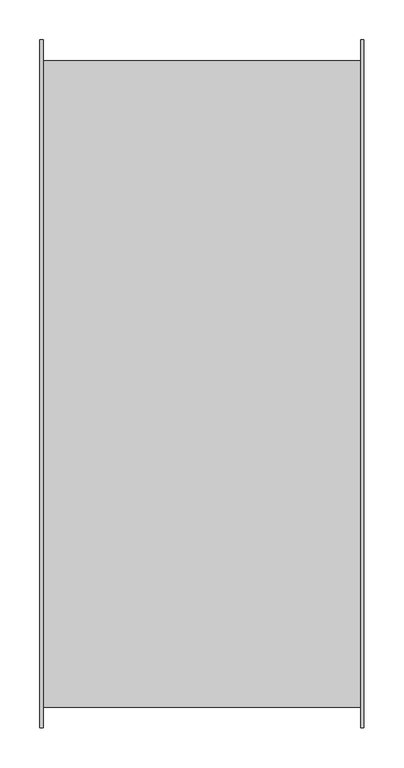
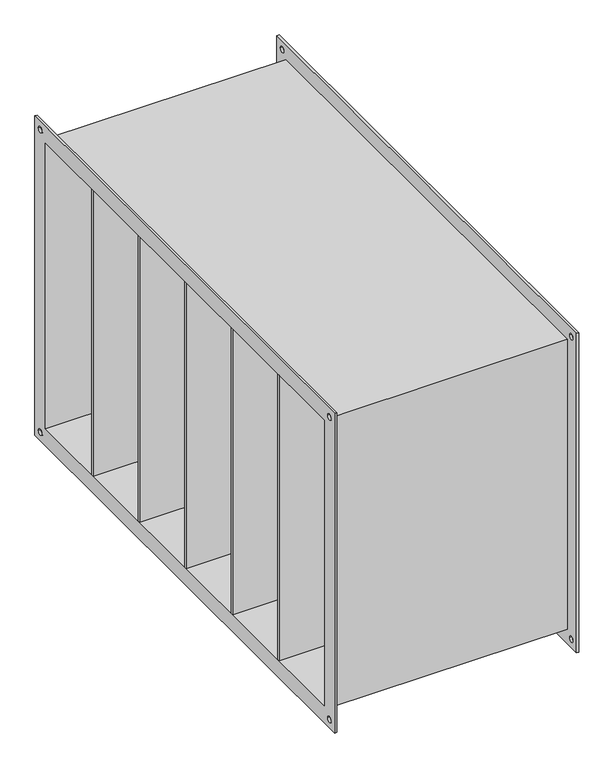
"""IFC4 building model written with IfcOpenShell, lengths in millimetres: damper geometry, СВ_ФильтрКарманныйУкороченный_КанальныйПрямоугольный_200-1000_SFPKU : SFPKU-800x500."""

from ifc_helpers import new_model, si_unit, frame, origin, place, context, project, spatial, polyline, circle_curve, outline, extrude, source, transform, mapped, element, save
from ifc_brep_helpers import plane_surface, revolved_surface, advanced_brep


def damper_000e9e42(model_context):
    return source(origin(), model_context, "Body", "SolidModel", [
        extrude(outline(polyline([(202.5, 266.6666667), (202.5, 262.6666667), (-202.5, 262.6666667), (-202.5, 266.6666667), (202.5, 266.6666667)])), frame((0.0, 0.0, -250.0), z_axis=(0.0, 0.0, 1.0), x_axis=(1.0, 0.0, 0.0)), (0.0, 0.0, 1.0), 500.0),
        extrude(outline(polyline([(202.5, 133.3333333), (202.5, 129.3333333), (-202.5, 129.3333333), (-202.5, 133.3333333), (202.5, 133.3333333)])), frame((0.0, 0.0, -250.0), z_axis=(0.0, 0.0, 1.0), x_axis=(1.0, 0.0, 0.0)), (0.0, 0.0, 1.0), 500.0),
        extrude(outline(polyline([(202.5, 0.0), (202.5, -4.0), (-202.5, -4.0), (-202.5, 0.0), (202.5, 0.0)])), frame((0.0, 0.0, -250.0), z_axis=(0.0, 0.0, 1.0), x_axis=(1.0, 0.0, 0.0)), (0.0, 0.0, 1.0), 500.0),
        extrude(outline(polyline([(202.5, -133.3333333), (202.5, -137.3333333), (-202.5, -137.3333333), (-202.5, -133.3333333), (202.5, -133.3333333)])), frame((0.0, 0.0, -250.0), z_axis=(0.0, 0.0, 1.0), x_axis=(1.0, 0.0, 0.0)), (0.0, 0.0, 1.0), 500.0),
        extrude(outline(polyline([(202.5, -266.6666667), (202.5, -270.6666667), (-202.5, -270.6666667), (-202.5, -266.6666667), (202.5, -266.6666667)])), frame((0.0, 0.0, -250.0), z_axis=(0.0, 0.0, 1.0), x_axis=(1.0, 0.0, 0.0)), (0.0, 0.0, 1.0), 500.0),
        advanced_brep(
        [(198.5, -404.0, 254.0), (-198.5, -404.0, 254.0), (-198.5, -404.0, -254.0), (198.5, -404.0, -254.0), (-198.5, 404.0, -254.0), (198.5, 404.0, -254.0), (-198.5, 404.0, 254.0), (198.5, 404.0, 254.0), (-202.5, -430.0, 280.0), (-202.5, 430.0, 280.0), (-202.5, 430.0, -280.0), (-202.5, -430.0, -280.0), (-202.5, -400.0, 250.0), (-202.5, -400.0, -250.0), (-202.5, 400.0, -250.0), (-202.5, 400.0, 250.0), (-202.5, 410.0, 265.0), (-202.5, 420.0, 265.0), (-202.5, -420.0, 265.0), (-202.5, -410.0, 265.0), (-202.5, -420.0, -265.0), (-202.5, -410.0, -265.0), (-202.5, 410.0, -265.0), (-202.5, 420.0, -265.0), (-198.5, -430.0, 280.0), (-198.5, -430.0, -280.0), (-198.5, 430.0, -280.0), (-198.5, 430.0, 280.0), (-198.5, 420.0, 265.0), (-198.5, 410.0, 265.0), (-198.5, -410.0, 265.0), (-198.5, -420.0, 265.0), (-198.5, -410.0, -265.0), (-198.5, -420.0, -265.0), (-198.5, 420.0, -265.0), (-198.5, 410.0, -265.0), (202.5, 400.0, 250.0), (202.5, -400.0, 250.0), (202.5, 400.0, -250.0), (202.5, -400.0, -250.0), (198.5, 430.0, 280.0), (198.5, 430.0, -280.0), (198.5, -430.0, -280.0), (198.5, -430.0, 280.0), (198.5, 410.0, 265.0), (198.5, 420.0, 265.0), (198.5, -420.0, 265.0), (198.5, -410.0, 265.0), (198.5, -420.0, -265.0), (198.5, -410.0, -265.0), (198.5, 410.0, -265.0), (198.5, 420.0, -265.0), (202.5, 430.0, 280.0), (202.5, -430.0, 280.0), (202.5, -430.0, -280.0), (202.5, 430.0, -280.0), (202.5, 420.0, 265.0), (202.5, 410.0, 265.0), (202.5, -410.0, 265.0), (202.5, -420.0, 265.0), (202.5, -410.0, -265.0), (202.5, -420.0, -265.0), (202.5, 420.0, -265.0), (202.5, 410.0, -265.0)],
        [
            (0, 1),
            (1, 2),
            (2, 3),
            (3, 0),
            (2, 4),
            (4, 5),
            (5, 3),
            (4, 6),
            (6, 7),
            (7, 5),
            (0, 7),
            (6, 1),
            (8, 9),
            (9, 10),
            (10, 11),
            (11, 8),
            (12, 13),
            (13, 14),
            (14, 15),
            (15, 12),
            (16, 17, circle_curve(frame((-202.5, 415.0, 265.0), z_axis=(1.0, 0.0, 0.0), x_axis=(0.0, 1.0, 0.0)), 5.0)),
            (17, 16, circle_curve(frame((-202.5, 415.0, 265.0), z_axis=(1.0, 0.0, 0.0), x_axis=(0.0, 1.0, 0.0)), 5.0)),
            (18, 19, circle_curve(frame((-202.5, -415.0, 265.0), z_axis=(1.0, 0.0, 0.0), x_axis=(0.0, 1.0, 0.0)), 5.0)),
            (19, 18, circle_curve(frame((-202.5, -415.0, 265.0), z_axis=(1.0, 0.0, 0.0), x_axis=(0.0, 1.0, 0.0)), 5.0)),
            (20, 21, circle_curve(frame((-202.5, -415.0, -265.0), z_axis=(1.0, 0.0, 0.0), x_axis=(0.0, 1.0, 0.0)), 5.0)),
            (21, 20, circle_curve(frame((-202.5, -415.0, -265.0), z_axis=(1.0, 0.0, 0.0), x_axis=(0.0, 1.0, 0.0)), 5.0)),
            (22, 23, circle_curve(frame((-202.5, 415.0, -265.0), z_axis=(1.0, 0.0, 0.0), x_axis=(0.0, 1.0, 0.0)), 5.0)),
            (23, 22, circle_curve(frame((-202.5, 415.0, -265.0), z_axis=(1.0, 0.0, 0.0), x_axis=(0.0, 1.0, 0.0)), 5.0)),
            (24, 25),
            (25, 26),
            (26, 27),
            (27, 24),
            (28, 29, circle_curve(frame((-198.5, 415.0, 265.0), z_axis=(-1.0, 0.0, 0.0), x_axis=(0.0, 1.0, 0.0)), 5.0)),
            (29, 28, circle_curve(frame((-198.5, 415.0, 265.0), z_axis=(-1.0, 0.0, 0.0), x_axis=(0.0, 1.0, 0.0)), 5.0)),
            (30, 31, circle_curve(frame((-198.5, -415.0, 265.0), z_axis=(-1.0, 0.0, 0.0), x_axis=(0.0, 1.0, 0.0)), 5.0)),
            (31, 30, circle_curve(frame((-198.5, -415.0, 265.0), z_axis=(-1.0, 0.0, 0.0), x_axis=(0.0, 1.0, 0.0)), 5.0)),
            (32, 33, circle_curve(frame((-198.5, -415.0, -265.0), z_axis=(-1.0, 0.0, 0.0), x_axis=(0.0, 1.0, 0.0)), 5.0)),
            (33, 32, circle_curve(frame((-198.5, -415.0, -265.0), z_axis=(-1.0, 0.0, 0.0), x_axis=(0.0, 1.0, 0.0)), 5.0)),
            (34, 35, circle_curve(frame((-198.5, 415.0, -265.0), z_axis=(-1.0, 0.0, 0.0), x_axis=(0.0, 1.0, 0.0)), 5.0)),
            (35, 34, circle_curve(frame((-198.5, 415.0, -265.0), z_axis=(-1.0, 0.0, 0.0), x_axis=(0.0, 1.0, 0.0)), 5.0)),
            (11, 25),
            (24, 8),
            (10, 26),
            (9, 27),
            (15, 36),
            (36, 37),
            (37, 12),
            (14, 38),
            (38, 36),
            (13, 39),
            (39, 38),
            (37, 39),
            (40, 41),
            (41, 42),
            (42, 43),
            (43, 40),
            (44, 45, circle_curve(frame((198.5, 415.0, 265.0), z_axis=(1.0, 0.0, 0.0), x_axis=(0.0, 1.0, 0.0)), 5.0)),
            (45, 44, circle_curve(frame((198.5, 415.0, 265.0), z_axis=(1.0, 0.0, 0.0), x_axis=(0.0, 1.0, 0.0)), 5.0)),
            (46, 47, circle_curve(frame((198.5, -415.0, 265.0), z_axis=(1.0, 0.0, 0.0), x_axis=(0.0, 1.0, 0.0)), 5.0)),
            (47, 46, circle_curve(frame((198.5, -415.0, 265.0), z_axis=(1.0, 0.0, 0.0), x_axis=(0.0, 1.0, 0.0)), 5.0)),
            (48, 49, circle_curve(frame((198.5, -415.0, -265.0), z_axis=(1.0, 0.0, 0.0), x_axis=(0.0, 1.0, 0.0)), 5.0)),
            (49, 48, circle_curve(frame((198.5, -415.0, -265.0), z_axis=(1.0, 0.0, 0.0), x_axis=(0.0, 1.0, 0.0)), 5.0)),
            (50, 51, circle_curve(frame((198.5, 415.0, -265.0), z_axis=(1.0, 0.0, 0.0), x_axis=(0.0, 1.0, 0.0)), 5.0)),
            (51, 50, circle_curve(frame((198.5, 415.0, -265.0), z_axis=(1.0, 0.0, 0.0), x_axis=(0.0, 1.0, 0.0)), 5.0)),
            (52, 53),
            (53, 54),
            (54, 55),
            (55, 52),
            (56, 57, circle_curve(frame((202.5, 415.0, 265.0), z_axis=(-1.0, 0.0, 0.0), x_axis=(0.0, 1.0, 0.0)), 5.0)),
            (57, 56, circle_curve(frame((202.5, 415.0, 265.0), z_axis=(-1.0, 0.0, 0.0), x_axis=(0.0, 1.0, 0.0)), 5.0)),
            (58, 59, circle_curve(frame((202.5, -415.0, 265.0), z_axis=(-1.0, 0.0, 0.0), x_axis=(0.0, 1.0, 0.0)), 5.0)),
            (59, 58, circle_curve(frame((202.5, -415.0, 265.0), z_axis=(-1.0, 0.0, 0.0), x_axis=(0.0, 1.0, 0.0)), 5.0)),
            (60, 61, circle_curve(frame((202.5, -415.0, -265.0), z_axis=(-1.0, 0.0, 0.0), x_axis=(0.0, 1.0, 0.0)), 5.0)),
            (61, 60, circle_curve(frame((202.5, -415.0, -265.0), z_axis=(-1.0, 0.0, 0.0), x_axis=(0.0, 1.0, 0.0)), 5.0)),
            (62, 63, circle_curve(frame((202.5, 415.0, -265.0), z_axis=(-1.0, 0.0, 0.0), x_axis=(0.0, 1.0, 0.0)), 5.0)),
            (63, 62, circle_curve(frame((202.5, 415.0, -265.0), z_axis=(-1.0, 0.0, 0.0), x_axis=(0.0, 1.0, 0.0)), 5.0)),
            (43, 53),
            (52, 40),
            (42, 54),
            (41, 55),
            (16, 29),
            (28, 17),
            (44, 57),
            (56, 45),
            (18, 31),
            (30, 19),
            (46, 59),
            (58, 47),
            (20, 33),
            (32, 21),
            (48, 61),
            (60, 49),
            (22, 35),
            (34, 23),
            (50, 63),
            (62, 51),
        ],
        [
            plane_surface(frame((198.5, -404.0, 254.0), z_axis=(0.0, -1.0, 0.0), x_axis=(-1.0, 0.0, 0.0))),
            plane_surface(frame((198.5, -404.0, -254.0), z_axis=(0.0, 0.0, -1.0), x_axis=(-1.0, 0.0, 0.0))),
            plane_surface(frame((198.5, 404.0, -254.0), z_axis=(0.0, 1.0, 0.0), x_axis=(-1.0, 0.0, 0.0))),
            plane_surface(frame((198.5, 404.0, 254.0), z_axis=(0.0, 0.0, 1.0), x_axis=(-1.0, 0.0, 0.0))),
            plane_surface(frame((-202.5, -430.0, 280.0), z_axis=(-1.0, 0.0, 0.0), x_axis=(0.0, 0.0, 1.0))),
            plane_surface(frame((-198.5, -430.0, 280.0), z_axis=(1.0, 0.0, 0.0), x_axis=(0.0, 0.0, -1.0))),
            plane_surface(frame((-198.5, -430.0, 280.0), z_axis=(0.0, -1.0, 0.0), x_axis=(-1.0, 0.0, 0.0))),
            plane_surface(frame((-198.5, -430.0, -280.0), z_axis=(0.0, 0.0, -1.0), x_axis=(-1.0, 0.0, 0.0))),
            plane_surface(frame((-198.5, 430.0, -280.0), z_axis=(0.0, 1.0, 0.0), x_axis=(-1.0, 0.0, 0.0))),
            plane_surface(frame((-198.5, 430.0, 280.0), z_axis=(0.0, 0.0, 1.0), x_axis=(-1.0, 0.0, 0.0))),
            plane_surface(frame((-198.5, -400.0, 250.0), z_axis=(0.0, 0.0, -1.0), x_axis=(-1.0, 0.0, 0.0))),
            plane_surface(frame((-198.5, 400.0, 250.0), z_axis=(0.0, -1.0, 0.0), x_axis=(-1.0, 0.0, 0.0))),
            plane_surface(frame((-198.5, 400.0, -250.0), z_axis=(0.0, 0.0, 1.0), x_axis=(-1.0, 0.0, 0.0))),
            plane_surface(frame((-198.5, -400.0, -250.0), z_axis=(0.0, 1.0, 0.0), x_axis=(-1.0, 0.0, 0.0))),
            plane_surface(frame((198.5, 400.0, -250.0), z_axis=(-1.0, 0.0, 0.0), x_axis=(0.0, 0.0, 1.0))),
            plane_surface(frame((202.5, 400.0, -250.0), z_axis=(1.0, 0.0, 0.0), x_axis=(0.0, 0.0, -1.0))),
            plane_surface(frame((202.5, 430.0, 280.0), z_axis=(0.0, 0.0, 1.0), x_axis=(-1.0, 0.0, 0.0))),
            plane_surface(frame((202.5, -430.0, 280.0), z_axis=(0.0, -1.0, 0.0), x_axis=(-1.0, 0.0, 0.0))),
            plane_surface(frame((202.5, -430.0, -280.0), z_axis=(0.0, 0.0, -1.0), x_axis=(-1.0, 0.0, 0.0))),
            plane_surface(frame((202.5, 430.0, -280.0), z_axis=(0.0, 1.0, 0.0), x_axis=(-1.0, 0.0, 0.0))),
            revolved_surface(polyline([(-198.5, 420.0, 265.0), (-202.5, 420.0, 265.0)]), (-202.5, 415.0, 265.0), (1.0, 0.0, 0.0)),
            revolved_surface(polyline([(202.5, 420.0, 265.0), (198.5, 420.0, 265.0)]), (-202.5, 415.0, 265.0), (1.0, 0.0, 0.0)),
            revolved_surface(polyline([(-198.5, -410.0, 265.0), (-202.5, -410.0, 265.0)]), (0.0, -415.0, 265.0), (1.0, 0.0, 0.0)),
            revolved_surface(polyline([(202.5, -410.0, 265.0), (198.5, -410.0, 265.0)]), (0.0, -415.0, 265.0), (1.0, 0.0, 0.0)),
            revolved_surface(polyline([(-198.5, -410.0, -265.0), (-202.5, -410.0, -265.0)]), (0.0, -415.0, -265.0), (1.0, 0.0, 0.0)),
            revolved_surface(polyline([(202.5, -410.0, -265.0), (198.5, -410.0, -265.0)]), (0.0, -415.0, -265.0), (1.0, 0.0, 0.0)),
            revolved_surface(polyline([(-198.5, 420.0, -265.0), (-202.5, 420.0, -265.0)]), (0.0, 415.0, -265.0), (1.0, 0.0, 0.0)),
            revolved_surface(polyline([(202.5, 420.0, -265.0), (198.5, 420.0, -265.0)]), (0.0, 415.0, -265.0), (1.0, 0.0, 0.0)),
        ],
        [
            (0, [[1, 2, 3, 4]]),
            (1, [[-3, 5, 6, 7]]),
            (2, [[-6, 8, 9, 10]]),
            (3, [[-1, 11, -9, 12]]),
            (4, [[13, 14, 15, 16], [17, 18, 19, 20], [21, 22], [23, 24], [25, 26], [27, 28]]),
            (5, [[29, 30, 31, 32], [-2, -12, -8, -5], [33, 34], [35, 36], [37, 38], [39, 40]]),
            (6, [[-16, 41, -29, 42]]),
            (7, [[-15, 43, -30, -41]]),
            (8, [[-14, 44, -31, -43]]),
            (9, [[-13, -42, -32, -44]]),
            (10, [[-20, 45, 46, 47]]),
            (11, [[-45, -19, 48, 49]]),
            (12, [[-48, -18, 50, 51]]),
            (13, [[-50, -17, -47, 52]]),
            (14, [[53, 54, 55, 56], [-4, -7, -10, -11], [57, 58], [59, 60], [61, 62], [63, 64]]),
            (15, [[65, 66, 67, 68], [-49, -51, -52, -46], [69, 70], [71, 72], [73, 74], [75, 76]]),
            (16, [[-56, 77, -65, 78]]),
            (17, [[-55, 79, -66, -77]]),
            (18, [[-54, 80, -67, -79]]),
            (19, [[-53, -78, -68, -80]]),
            (20, [[81, -33, 82, -21]]),
            (21, [[83, -69, 84, -57]]),
            (20, [[-81, -22, -82, -34]]),
            (21, [[-83, -58, -84, -70]]),
            (22, [[85, -35, 86, -23]]),
            (23, [[87, -71, 88, -59]]),
            (22, [[-85, -24, -86, -36]]),
            (23, [[-87, -60, -88, -72]]),
            (24, [[89, -37, 90, -25]]),
            (25, [[91, -73, 92, -61]]),
            (24, [[-89, -26, -90, -38]]),
            (25, [[-91, -62, -92, -74]]),
            (26, [[93, -39, 94, -27]]),
            (27, [[95, -75, 96, -63]]),
            (26, [[-93, -28, -94, -40]]),
            (27, [[-95, -64, -96, -76]]),
        ],
    ),
    ])


if __name__ == "__main__":
    model = new_model("IFC4")
    model_context = context("Model", 3, world=origin())
    ifc_project = project(units=[si_unit("LENGTHUNIT", "METRE", prefix="MILLI")], contexts=[model_context])
    site = spatial("IfcSite", under=ifc_project)
    building = spatial("IfcBuilding", under=site)
    placement = place(None, origin())
    damper_shape = damper_000e9e42(model_context)
    element("IfcDamper", 1, ObjectType="СВ_ФильтрКарманныйУкороченный_КанальныйПрямоугольный_200-1000_SFPKU : SFPKU-800x500", at=placement, inside=building, context=model_context, shape_type="MappedRepresentation", body=[
        mapped(damper_shape, transform((0.0, 0.0, 0.0), x_axis=(1.0, 0.0, 0.0), y_axis=(0.0, 1.0, 0.0), z_axis=(0.0, 0.0, 1.0))),
    ])
    save(model, "model.ifc")
